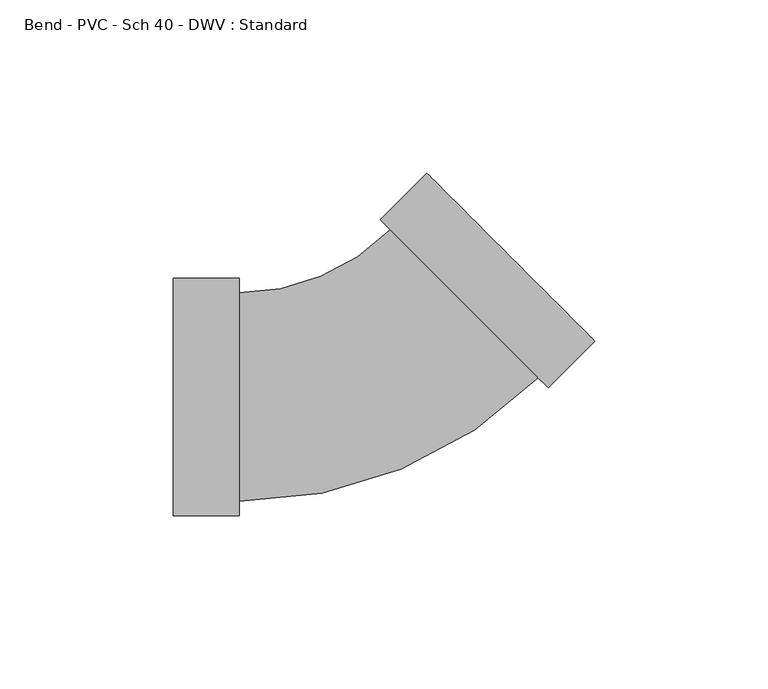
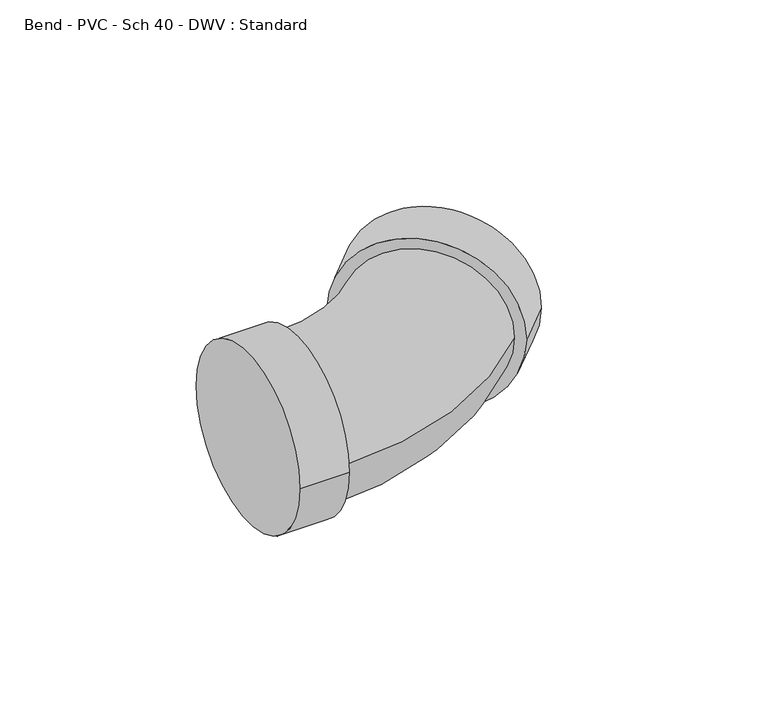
"""IFC4 building model written with IfcOpenShell, lengths in millimetres: pipe fitting geometry, Bend - PVC - Sch 40 - DWV : Standard."""

from ifc_helpers import new_model, si_unit, point, frame, origin, place, context, project, spatial, circle_curve, ellipse_curve, trimmed, source, transform, mapped, element, save
from ifc_brep_helpers import plane_surface, cylinder_surface, revolved_surface, advanced_brep


def bend_pvc_sch_40_dwv_standard_f2f5988a(model_context):
    return source(origin(), model_context, "Body", "AdvancedBrep", [
        advanced_brep(
        [(-57.15, -34.3154, 0.0), (-57.15, 34.3154, 0.0), (-38.1, -34.3154, 0.0), (-38.1, 34.3154, 0.0), (-38.1, -30.1625, 0.0), (-38.1, 30.1625, 0.0), (5.6126601, 48.2688766, 0.0), (48.2688766, 5.6126601, 0.0), (51.2054204, 2.6761163, 0.0), (2.6761163, 51.2054204, 0.0), (64.6758046, 16.1465005, 0.0), (16.1465005, 64.6758046, 0.0)],
        [
            (0, 1, circle_curve(frame((-57.15, 0.0, 0.0), z_axis=(-1.0, 0.0, 0.0), x_axis=(0.0, 1.0, 0.0)), 34.3154)),
            (1, 0, circle_curve(frame((-57.15, 0.0, 0.0), z_axis=(-1.0, 0.0, 0.0), x_axis=(0.0, 1.0, 0.0)), 34.3154)),
            (2, 3, circle_curve(frame((-38.1, 0.0, 0.0), z_axis=(1.0, 0.0, 0.0), x_axis=(0.0, 1.0, 0.0)), 34.3154)),
            (3, 2, circle_curve(frame((-38.1, 0.0, 0.0), z_axis=(1.0, 0.0, 0.0), x_axis=(0.0, 1.0, 0.0)), 34.3154)),
            (4, 5, circle_curve(frame((-38.1, 0.0, 0.0), z_axis=(-1.0, 0.0, 0.0), x_axis=(0.0, 1.0, 0.0)), 30.1625)),
            (5, 4, circle_curve(frame((-38.1, 0.0, 0.0), z_axis=(-1.0, 0.0, 0.0), x_axis=(0.0, 1.0, 0.0)), 30.1625)),
            (0, 2),
            (3, 1),
            (6, 5, circle_curve(frame((-38.1, 91.9815367, 0.0), z_axis=(0.0, 0.0, -1.0), x_axis=(0.0, -1.0, 0.0)), 61.8190367)),
            (4, 7, circle_curve(frame((-38.1, 91.9815367, 0.0), z_axis=(0.0, 0.0, 1.0), x_axis=(0.0, -1.0, 0.0)), 122.1440367)),
            (7, 6, circle_curve(frame((26.9407684, 26.9407684, 0.0), z_axis=(-0.7071067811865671, -0.7071067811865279, 0.0), x_axis=(-0.7071067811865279, 0.7071067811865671, 0.0)), 30.1625)),
            (6, 7, circle_curve(frame((26.9407684, 26.9407684, 0.0), z_axis=(-0.7071067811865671, -0.7071067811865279, 0.0), x_axis=(-0.7071067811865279, 0.7071067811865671, 0.0)), 30.1625)),
            (8, 9, circle_curve(frame((26.9407684, 26.9407684, 0.0), z_axis=(-0.7071067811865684, -0.7071067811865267, 0.0), x_axis=(-0.7071067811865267, 0.7071067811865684, 0.0)), 34.3154)),
            (9, 8, circle_curve(frame((26.9407684, 26.9407684, 0.0), z_axis=(-0.7071067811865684, -0.7071067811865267, 0.0), x_axis=(-0.7071067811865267, 0.7071067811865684, 0.0)), 34.3154)),
            (10, 11, circle_curve(frame((40.4111525, 40.4111525, 0.0), z_axis=(0.7071067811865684, 0.7071067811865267, 0.0), x_axis=(-0.7071067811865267, 0.7071067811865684, 0.0)), 34.3154)),
            (11, 10, circle_curve(frame((40.4111525, 40.4111525, 0.0), z_axis=(0.7071067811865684, 0.7071067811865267, 0.0), x_axis=(-0.7071067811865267, 0.7071067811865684, 0.0)), 34.3154)),
            (8, 10),
            (11, 9),
        ],
        [
            plane_surface(frame((-57.15, 0.0, 0.0), z_axis=(-1.0, 0.0, 0.0), x_axis=(0.0, 0.0, 1.0))),
            plane_surface(frame((-38.1, 0.0, 0.0), z_axis=(1.0, 0.0, 0.0), x_axis=(0.0, 0.0, 1.0))),
            cylinder_surface(frame((-57.15, 0.0, 0.0), z_axis=(-1.0, 0.0, 0.0), x_axis=(0.0, 1.0, 0.0)), 34.3154),
            revolved_surface(trimmed(ellipse_curve(frame((-38.1, 0.0, 0.0), z_axis=(-1.0, 0.0, 0.0), x_axis=(0.0, 1.0, 0.0)), 30.1625, 30.1625), [point((-38.1, -30.1625, 0.0))], [point((-38.1, 30.1625, 0.0))], True, "CARTESIAN"), (-38.1, 91.9815367, 0.0), (0.0, 0.0, 1.0)),
            revolved_surface(trimmed(ellipse_curve(frame((-38.1, 0.0, 0.0), z_axis=(-1.0, 0.0, 0.0), x_axis=(0.0, 1.0, 0.0)), 30.1625, 30.1625), [point((-38.1, 30.1625, 0.0))], [point((-38.1, -30.1625, 0.0))], True, "CARTESIAN"), (-38.1, 91.9815367, 0.0), (0.0, 0.0, 1.0)),
            plane_surface(frame((26.9407684, 26.9407684, 0.0), z_axis=(-0.7071067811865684, -0.7071067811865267, 0.0), x_axis=(0.0, 0.0, 1.0))),
            plane_surface(frame((40.4111525, 40.4111525, 0.0), z_axis=(0.7071067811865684, 0.7071067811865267, 0.0), x_axis=(0.0, 0.0, 1.0))),
            cylinder_surface(frame((26.9407684, 26.9407684, 0.0), z_axis=(-0.7071067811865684, -0.7071067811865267, 0.0), x_axis=(-0.7071067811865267, 0.7071067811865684, 0.0)), 34.3154),
        ],
        [
            (0, [[1, 2]]),
            (1, [[3, 4], [5, 6]]),
            (2, [[-1, 7, -4, 8]]),
            (2, [[-2, -8, -3, -7]]),
            (3, [[9, -5, 10, 11]]),
            (4, [[-9, 12, -10, -6]]),
            (5, [[13, 14], [-11, -12]]),
            (6, [[15, 16]]),
            (7, [[-13, 17, -16, 18]]),
            (7, [[-14, -18, -15, -17]]),
        ],
    ),
    ])


if __name__ == "__main__":
    model = new_model("IFC4")
    model_context = context("Model", 3, world=origin())
    ifc_project = project(units=[si_unit("LENGTHUNIT", "METRE", prefix="MILLI")], contexts=[model_context])
    site = spatial("IfcSite", under=ifc_project)
    building = spatial("IfcBuilding", under=site)
    placement = place(None, origin())
    bend_pvc_sch_40_dwv_standard_shape = bend_pvc_sch_40_dwv_standard_f2f5988a(model_context)
    element("IfcPipeFitting", 1, ObjectType="Bend - PVC - Sch 40 - DWV : Standard", at=placement, inside=building, context=model_context, shape_type="MappedRepresentation", body=[
        mapped(bend_pvc_sch_40_dwv_standard_shape, transform((0.0, 0.0, 0.0), x_axis=(1.0, 0.0, 0.0), y_axis=(0.0, 1.0, 0.0), z_axis=(0.0, 0.0, 1.0))),
    ])
    save(model, "model.ifc")
